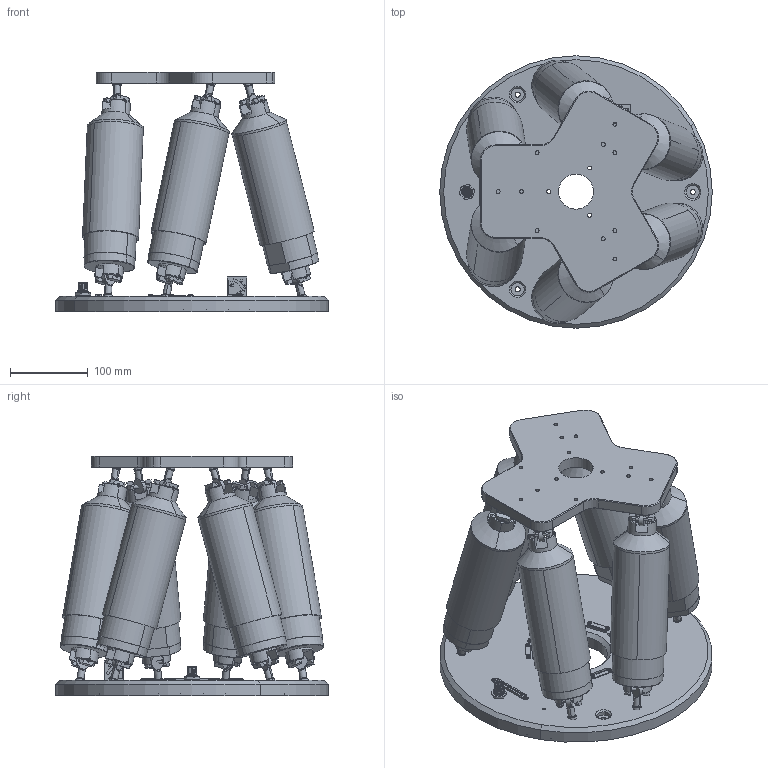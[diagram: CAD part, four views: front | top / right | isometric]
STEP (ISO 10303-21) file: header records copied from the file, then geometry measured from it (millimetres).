
FILE_DESCRIPTION (( 'STEP AP214' ), '1' );
FILE_NAME ('H-820.D1_KUNDENMODELL H-820.D1.STEP', '2014-10-01T10:53:17', ( 'supervisor' ), ( '' ), 'SwSTEP 2.0', 'SolidWorks 2012', '' );
FILE_SCHEMA (( 'AUTOMOTIVE_DESIGN' ));
Length unit declared in the file: millimetre
Products named in the file (1): H-820.D1_KUNDENMODELL H-820.D1
Bounding box: 350 x 350 x 308.01 mm (x, y, z)
Volume: 5586842.9 mm3; surface area: 1256198.8 mm2
Topology: 106 solids, 106 shells, 2988 faces, 7490 edges, 4869 vertices
Faces by surface type: plane 1410, cylinder 1000, cone 239, bspline 154, torus 130, sphere 55
Entity records: 132512 total; most frequent: CARTESIAN_POINT 27470, ORIENTED_EDGE 14944, DIRECTION 14380, EDGE_CURVE 7472, AXIS2_PLACEMENT_3D 5258, VERTEX_POINT 4869, LINE 3864, VECTOR 3864
